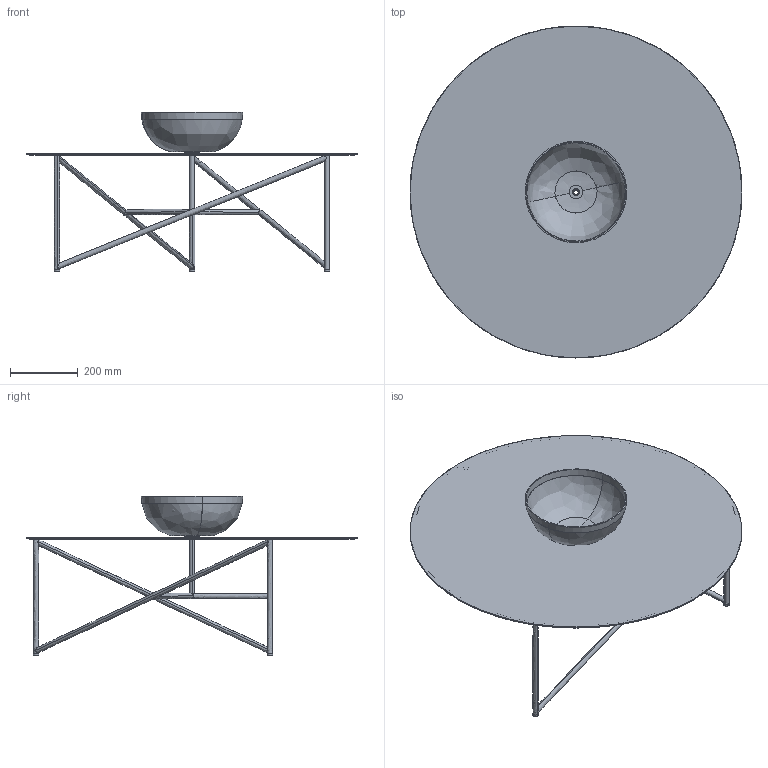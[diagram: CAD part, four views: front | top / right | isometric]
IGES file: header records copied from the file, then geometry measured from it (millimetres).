
Start section: SolidWorks IGES file using analytic representation for surfaces
Global section: file name: \\utenti\Dati Utenti\Tecnico\DC\2D - 3D per sito\3D\DeCastelli-3D-Parsec 98 V.igs; native system: SolidWorks 2022; preprocessor: SolidWorks 2022; author: Simonep; date: 240729.120525; units: millimetre
Bounding box: 980 x 980 x 470.3 mm (x, y, z)
Surface area: 2725057.6 mm2 (no closed solid volume)
Topology: 0 solids, 0 shells, 87 faces, 1640 edges, 1634 vertices
Faces by surface type: bspline 48, revolution 39
